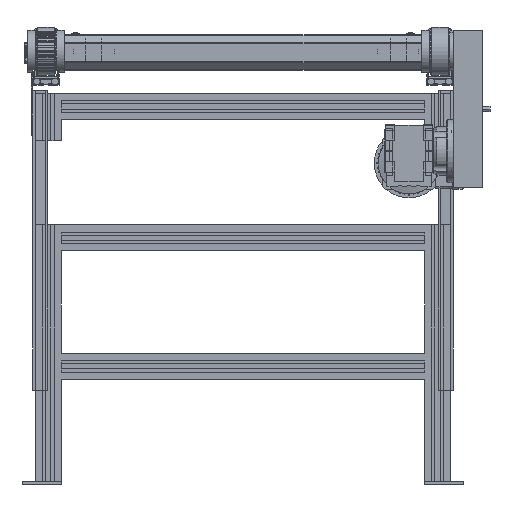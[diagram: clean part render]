
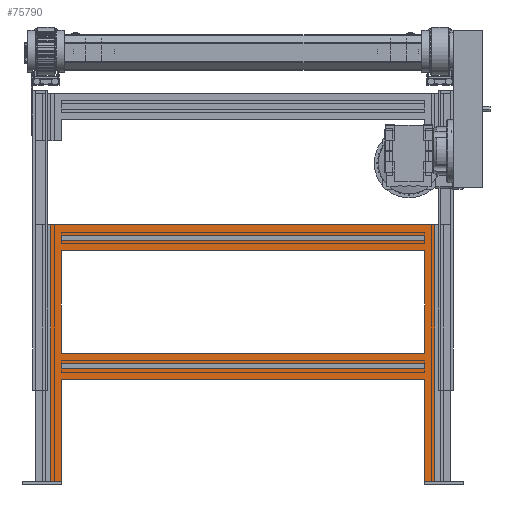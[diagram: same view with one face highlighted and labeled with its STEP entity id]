
A CAD part, front view. The second image highlights one B-rep face of the part: STEP entity #75790.
In plain terms, the highlighted planar face has unit normal (0, -1, 0).
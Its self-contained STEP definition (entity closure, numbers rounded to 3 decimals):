
#1174=FACE_BOUND('',#9986,.T.);
#1175=FACE_BOUND('',#9987,.T.);
#1176=FACE_BOUND('',#9988,.T.);
#6221=FACE_OUTER_BOUND('',#9985,.T.);
#9985=EDGE_LOOP('',(#56427,#56428,#56429,#56430,#56431,#56432,#56433,#56434));
#9986=EDGE_LOOP('',(#56435,#56436,#56437,#56438));
#9987=EDGE_LOOP('',(#56439,#56440,#56441,#56442));
#9988=EDGE_LOOP('',(#56443,#56444,#56445,#56446));
#15529=LINE('',#113650,#23461);
#15742=LINE('',#114098,#23674);
#15748=LINE('',#114112,#23680);
#15764=LINE('',#114145,#23696);
#15788=LINE('',#114196,#23720);
#15938=LINE('',#114492,#23870);
#15965=LINE('',#114545,#23897);
#16166=LINE('',#114943,#24098);
#16178=LINE('',#114967,#24110);
#16181=LINE('',#114973,#24113);
#16228=LINE('',#115066,#24160);
#16232=LINE('',#115074,#24164);
#16235=LINE('',#115079,#24167);
#16244=LINE('',#115094,#24176);
#16255=LINE('',#115116,#24187);
#16267=LINE('',#115140,#24199);
#16309=LINE('',#115221,#24241);
#16313=LINE('',#115228,#24245);
#16410=LINE('',#115418,#24342);
#16411=LINE('',#115420,#24343);
#23461=VECTOR('',#91843,19.95);
#23674=VECTOR('',#92186,194.5);
#23680=VECTOR('',#92196,10.1);
#23696=VECTOR('',#92216,194.5);
#23720=VECTOR('',#92250,10.1);
#23870=VECTOR('',#92486,489.);
#23897=VECTOR('',#92533,19.95);
#24098=VECTOR('',#92904,691.);
#24110=VECTOR('',#92928,691.);
#24113=VECTOR('',#92933,691.);
#24160=VECTOR('',#93020,691.);
#24164=VECTOR('',#93030,194.5);
#24167=VECTOR('',#93035,10.1);
#24176=VECTOR('',#93052,194.5);
#24187=VECTOR('',#93069,691.);
#24199=VECTOR('',#93093,691.);
#24241=VECTOR('',#93173,691.);
#24245=VECTOR('',#93183,10.1);
#24342=VECTOR('',#93366,489.);
#24343=VECTOR('',#93369,730.9);
#31228=VERTEX_POINT('',#113648);
#31229=VERTEX_POINT('',#113649);
#31396=VERTEX_POINT('',#114091);
#31399=VERTEX_POINT('',#114096);
#31404=VERTEX_POINT('',#114109);
#31405=VERTEX_POINT('',#114111);
#31419=VERTEX_POINT('',#114142);
#31420=VERTEX_POINT('',#114144);
#31440=VERTEX_POINT('',#114192);
#31442=VERTEX_POINT('',#114195);
#31544=VERTEX_POINT('',#114488);
#31545=VERTEX_POINT('',#114490);
#31673=VERTEX_POINT('',#114940);
#31679=VERTEX_POINT('',#114965);
#31681=VERTEX_POINT('',#114970);
#31706=VERTEX_POINT('',#115063);
#31708=VERTEX_POINT('',#115073);
#31719=VERTEX_POINT('',#115113);
#31725=VERTEX_POINT('',#115138);
#31795=VERTEX_POINT('',#115416);
#39830=EDGE_CURVE('',#31228,#31229,#15529,.T.);
#40053=EDGE_CURVE('',#31396,#31399,#15742,.T.);
#40059=EDGE_CURVE('',#31405,#31404,#15748,.T.);
#40075=EDGE_CURVE('',#31420,#31419,#15764,.T.);
#40099=EDGE_CURVE('',#31442,#31440,#15788,.T.);
#40249=EDGE_CURVE('',#31545,#31544,#15938,.T.);
#40276=EDGE_CURVE('',#31545,#31420,#15965,.T.);
#40479=EDGE_CURVE('',#31405,#31673,#16166,.T.);
#40491=EDGE_CURVE('',#31404,#31679,#16178,.T.);
#40494=EDGE_CURVE('',#31396,#31681,#16181,.T.);
#40541=EDGE_CURVE('',#31419,#31706,#16228,.T.);
#40545=EDGE_CURVE('',#31681,#31708,#16232,.T.);
#40548=EDGE_CURVE('',#31673,#31679,#16235,.T.);
#40557=EDGE_CURVE('',#31229,#31706,#16244,.T.);
#40568=EDGE_CURVE('',#31442,#31719,#16255,.T.);
#40580=EDGE_CURVE('',#31440,#31725,#16267,.T.);
#40622=EDGE_CURVE('',#31399,#31708,#16309,.T.);
#40626=EDGE_CURVE('',#31719,#31725,#16313,.T.);
#40723=EDGE_CURVE('',#31228,#31795,#16410,.T.);
#40724=EDGE_CURVE('',#31544,#31795,#16411,.T.);
#56427=ORIENTED_EDGE('',*,*,#40541,.T.);
#56428=ORIENTED_EDGE('',*,*,#40557,.F.);
#56429=ORIENTED_EDGE('',*,*,#39830,.F.);
#56430=ORIENTED_EDGE('',*,*,#40723,.T.);
#56431=ORIENTED_EDGE('',*,*,#40724,.F.);
#56432=ORIENTED_EDGE('',*,*,#40249,.F.);
#56433=ORIENTED_EDGE('',*,*,#40276,.T.);
#56434=ORIENTED_EDGE('',*,*,#40075,.T.);
#56435=ORIENTED_EDGE('',*,*,#40491,.T.);
#56436=ORIENTED_EDGE('',*,*,#40548,.F.);
#56437=ORIENTED_EDGE('',*,*,#40479,.F.);
#56438=ORIENTED_EDGE('',*,*,#40059,.T.);
#56439=ORIENTED_EDGE('',*,*,#40580,.T.);
#56440=ORIENTED_EDGE('',*,*,#40626,.F.);
#56441=ORIENTED_EDGE('',*,*,#40568,.F.);
#56442=ORIENTED_EDGE('',*,*,#40099,.T.);
#56443=ORIENTED_EDGE('',*,*,#40494,.F.);
#56444=ORIENTED_EDGE('',*,*,#40053,.T.);
#56445=ORIENTED_EDGE('',*,*,#40622,.T.);
#56446=ORIENTED_EDGE('',*,*,#40545,.F.);
#69085=PLANE('',#80553);
#75790=ADVANCED_FACE('',(#6221,#1174,#1175,#1176),#69085,.T.);
#80553=AXIS2_PLACEMENT_3D('',#115419,#93367,#93368);
#91843=DIRECTION('',(-1.,0.,0.));
#92186=DIRECTION('',(0.,0.,1.));
#92196=DIRECTION('',(0.,0.,1.));
#92216=DIRECTION('',(0.,0.,1.));
#92250=DIRECTION('',(0.,0.,1.));
#92486=DIRECTION('',(0.,0.,1.));
#92533=DIRECTION('',(1.,0.,0.));
#92904=DIRECTION('',(1.,0.,0.));
#92928=DIRECTION('',(1.,0.,0.));
#92933=DIRECTION('',(1.,0.,0.));
#93020=DIRECTION('',(1.,0.,0.));
#93030=DIRECTION('',(0.,0.,1.));
#93035=DIRECTION('',(0.,0.,1.));
#93052=DIRECTION('',(0.,0.,1.));
#93069=DIRECTION('',(1.,0.,0.));
#93093=DIRECTION('',(1.,0.,0.));
#93173=DIRECTION('',(1.,0.,0.));
#93183=DIRECTION('',(0.,0.,1.));
#93366=DIRECTION('',(0.,0.,1.));
#93367=DIRECTION('center_axis',(0.,-1.,0.));
#93368=DIRECTION('ref_axis',(0.,0.,-1.));
#93369=DIRECTION('',(1.,0.,0.));
#113648=CARTESIAN_POINT('',(365.45,-845.,-819.));
#113649=CARTESIAN_POINT('',(345.5,-845.,-819.));
#113650=CARTESIAN_POINT('',(374.225,-845.,-819.));
#114091=CARTESIAN_POINT('',(-345.5,-845.,-574.5));
#114096=CARTESIAN_POINT('',(-345.5,-845.,-380.));
#114098=CARTESIAN_POINT('',(-345.5,-845.,-819.));
#114109=CARTESIAN_POINT('',(-345.5,-845.,-594.45));
#114111=CARTESIAN_POINT('',(-345.5,-845.,-604.55));
#114112=CARTESIAN_POINT('',(-345.5,-845.,-819.));
#114142=CARTESIAN_POINT('',(-345.5,-845.,-624.5));
#114144=CARTESIAN_POINT('',(-345.5,-845.,-819.));
#114145=CARTESIAN_POINT('',(-345.5,-845.,-819.));
#114192=CARTESIAN_POINT('',(-345.5,-845.,-349.95));
#114195=CARTESIAN_POINT('',(-345.5,-845.,-360.05));
#114196=CARTESIAN_POINT('',(-345.5,-845.,-819.));
#114488=CARTESIAN_POINT('',(-365.45,-845.,-330.));
#114490=CARTESIAN_POINT('',(-365.45,-845.,-819.));
#114492=CARTESIAN_POINT('',(-365.45,-845.,-819.));
#114545=CARTESIAN_POINT('',(-374.225,-845.,-819.));
#114940=CARTESIAN_POINT('',(345.5,-845.,-604.55));
#114943=CARTESIAN_POINT('',(0.,-845.,-604.55));
#114965=CARTESIAN_POINT('',(345.5,-845.,-594.45));
#114967=CARTESIAN_POINT('',(0.,-845.,-594.45));
#114970=CARTESIAN_POINT('',(345.5,-845.,-574.5));
#114973=CARTESIAN_POINT('',(0.,-845.,-574.5));
#115063=CARTESIAN_POINT('',(345.5,-845.,-624.5));
#115066=CARTESIAN_POINT('',(0.,-845.,-624.5));
#115073=CARTESIAN_POINT('',(345.5,-845.,-380.));
#115074=CARTESIAN_POINT('',(345.5,-845.,-819.));
#115079=CARTESIAN_POINT('',(345.5,-845.,-819.));
#115094=CARTESIAN_POINT('',(345.5,-845.,-819.));
#115113=CARTESIAN_POINT('',(345.5,-845.,-360.05));
#115116=CARTESIAN_POINT('',(0.,-845.,-360.05));
#115138=CARTESIAN_POINT('',(345.5,-845.,-349.95));
#115140=CARTESIAN_POINT('',(0.,-845.,-349.95));
#115221=CARTESIAN_POINT('',(0.,-845.,-380.));
#115228=CARTESIAN_POINT('',(345.5,-845.,-819.));
#115416=CARTESIAN_POINT('',(365.45,-845.,-330.));
#115418=CARTESIAN_POINT('',(365.45,-845.,-819.));
#115419=CARTESIAN_POINT('Origin',(365.45,-845.,-819.));
#115420=CARTESIAN_POINT('',(0.,-845.,-330.));
